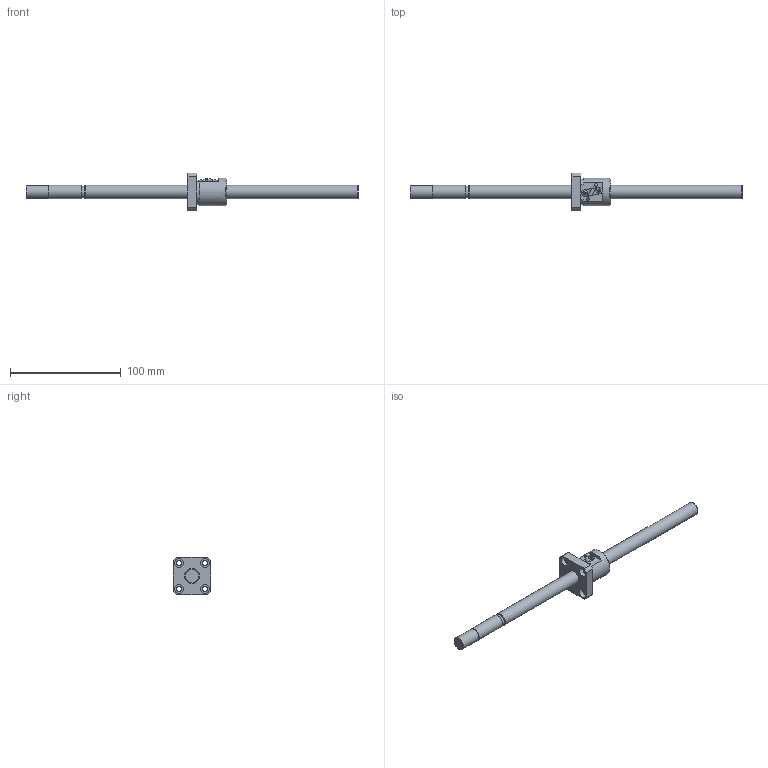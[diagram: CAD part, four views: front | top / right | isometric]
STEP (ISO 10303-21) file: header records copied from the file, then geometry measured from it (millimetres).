
FILE_DESCRIPTION((''),'2;1');
FILE_NAME('D:\製品 (図面)\カタログ用3D\ネジ関連\STEP形式\KBS(C)\KBS(C)1202-300.stp','2010-06-02T09:15:34',('Tsuchiya'),(''),'Autodesk Inventor 10','Autodesk Inventor 10','');
FILE_SCHEMA(('AUTOMOTIVE_DESIGN { 1 0 10303 214 1 1 1 1 }'));
Length unit declared in the file: millimetre
Products named in the file (3): KBS(C)1202-300; KBS(C)1202-3001; KBS(C)1202-3002
Assembly tree (2 placements, depth 2):
  KBS(C)1202-300
    KBS(C)1202-3001
    KBS(C)1202-3002
Bounding box: 300 x 34 x 34 mm (x, y, z)
Volume: 49999.8 mm3; surface area: 18917.7 mm2
Topology: 2 solids, 2 shells, 93 faces, 232 edges, 153 vertices
Faces by surface type: plane 42, cylinder 30, bspline 16, cone 3, torus 2
Full cylindrical faces by diameter (mm): 2.1 x1, 4.5 x4, 5.6 x1, 8 x4, 10.6 x1, 11.7 x1, 12 x3, 14 x2, 25 x1
Entity records: 2857 total; most frequent: CARTESIAN_POINT 712, DIRECTION 408, ORIENTED_EDGE 396, EDGE_CURVE 198, AXIS2_PLACEMENT_3D 152, VERTEX_POINT 146, EDGE_LOOP 146, VECTOR 104
